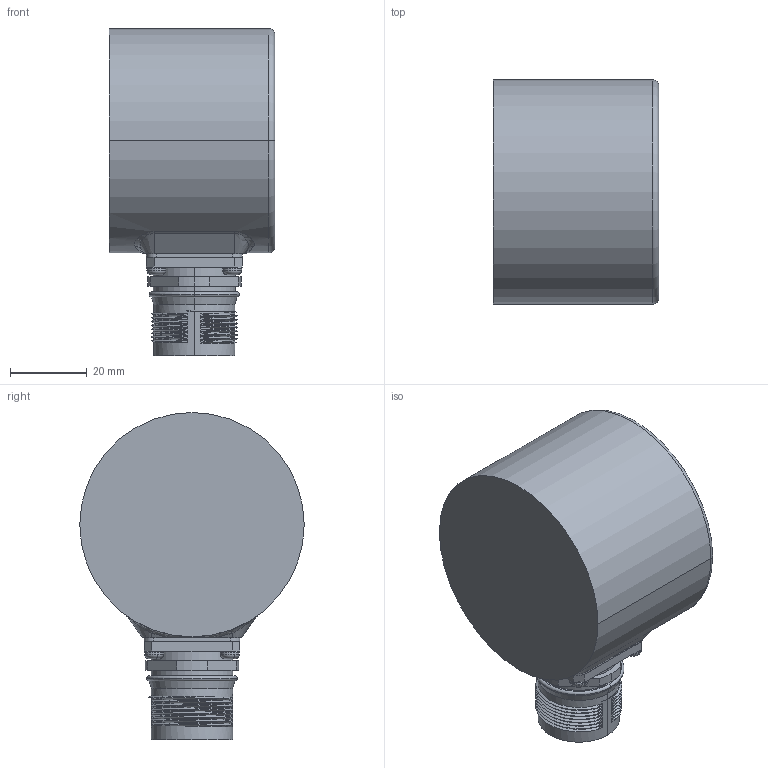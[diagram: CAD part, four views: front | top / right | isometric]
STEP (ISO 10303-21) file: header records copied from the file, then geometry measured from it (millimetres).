
FILE_DESCRIPTION (( 'STEP AP214' ), '1' );
FILE_NAME ('Drawing-MC-5-CR-432-SZM-NNNZ1B-N-PRR-N.STEP', '2018-12-04T14:35:59', ( '' ), ( '' ), 'SwSTEP 2.0', 'SolidWorks 2018', '' );
FILE_SCHEMA (( 'AUTOMOTIVE_DESIGN' ));
Length unit declared in the file: millimetre
Products named in the file (2): Drawing-MC-5-CR-432-SZM-NNNZ1B-N-PRR-N
Bounding box: 43.2 x 58.6 x 85.4 mm (x, y, z)
Volume: 19437.2 mm3; surface area: 31373.4 mm2
Topology: 26 solids, 26 shells, 751 faces, 1896 edges, 1219 vertices
Faces by surface type: plane 250, bspline 164, cylinder 155, cone 102, torus 56, sphere 24
Entity records: 44651 total; most frequent: CARTESIAN_POINT 19229, ORIENTED_EDGE 3680, DIRECTION 3193, EDGE_CURVE 1840, AXIS2_PLACEMENT_3D 1233, VERTEX_POINT 1195, EDGE_LOOP 851, UNCERTAINTY_MEASURE_WITH_UNIT 777
